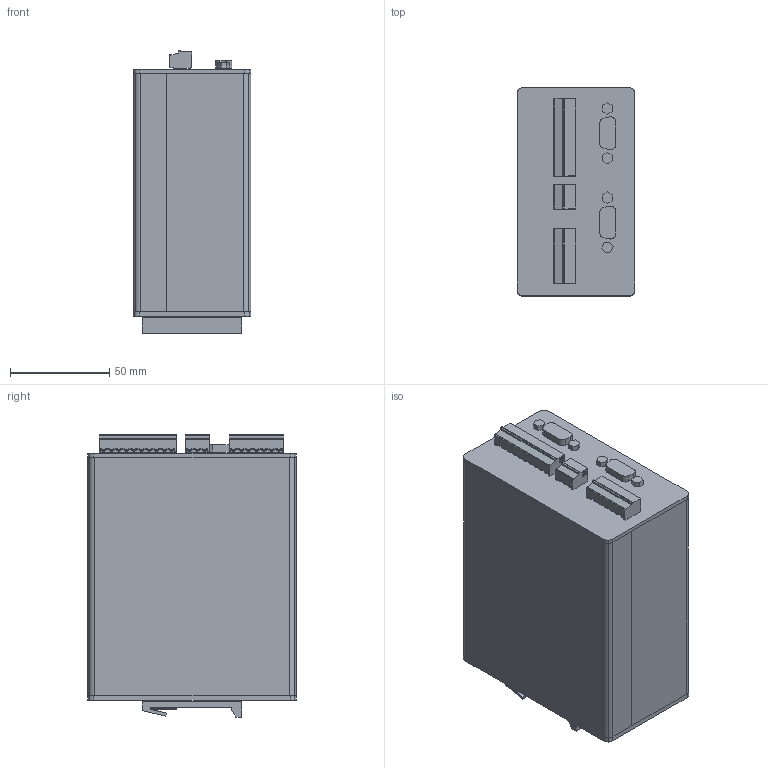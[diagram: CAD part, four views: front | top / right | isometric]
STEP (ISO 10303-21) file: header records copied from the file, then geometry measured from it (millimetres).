
FILE_DESCRIPTION(('STEP AP214'),'1');
FILE_NAME('burster_9221_8gud32dbsb7xc9jfsk0552ed1.stp','2017-04-21T16:09:12',('TraceParts'),('TraceParts S.A.'),'Spatial InterOp 3D',' ',' ');
FILE_SCHEMA(('automotive_design'));
Length unit declared in the file: millimetre
Products named in the file (11): burster_9221_8gud32dbsb7xc9jfsk0552ed1_1; burster_9221_8gud32dbsb7xc9jfsk0552ed1_2; burster_9221_8gud32dbsb7xc9jfsk0552ed1_3; burster_9221_8gud32dbsb7xc9jfsk0552ed1_4; burster_9221_8gud32dbsb7xc9jfsk0552ed1_5; burster_9221_8gud32dbsb7xc9jfsk0552ed1_6; burster_9221_8gud32dbsb7xc9jfsk0552ed1_7; burster_9221_8gud32dbsb7xc9jfsk0552ed1_8; burster_9221_8gud32dbsb7xc9jfsk0552ed1_9; burster_9221_8gud32dbsb7xc9jfsk0552ed1_10; burster_9221_8gud32dbsb7xc9jfsk0552ed1_11
Bounding box: 59.3 x 105 x 142.4 mm (x, y, z)
Volume: 774741 mm3; surface area: 98738.6 mm2
Topology: 11 solids, 62 shells, 847 faces, 2063 edges, 1309 vertices
Faces by surface type: plane 467, cylinder 272, torus 52, sphere 40, cone 16
Entity records: 35368 total; most frequent: CARTESIAN_POINT 8284, DIRECTION 4320, ORIENTED_EDGE 4046, EDGE_CURVE 2023, AXIS2_PLACEMENT_3D 1535, VERTEX_POINT 1309, LINE 1250, VECTOR 1250
